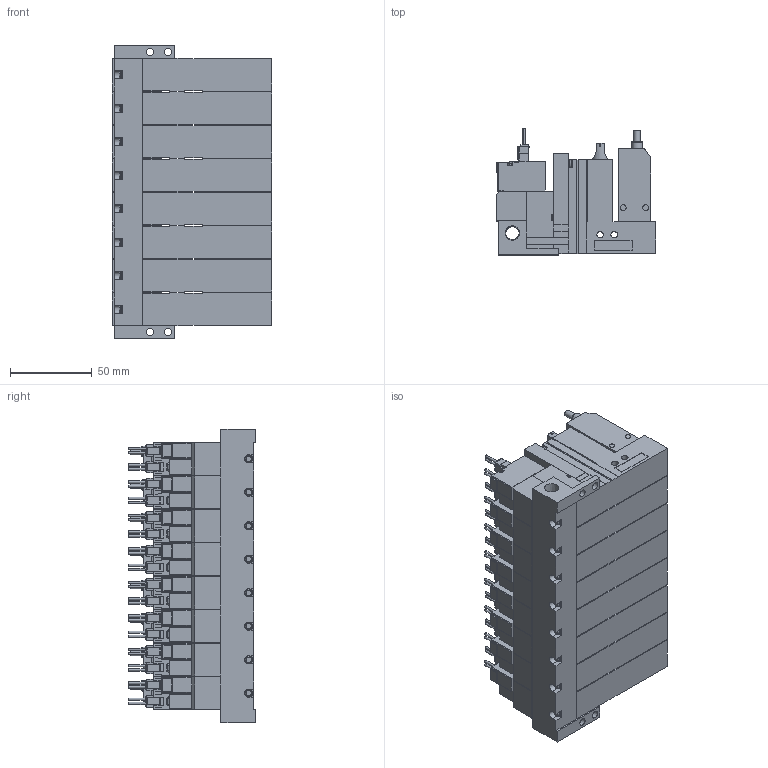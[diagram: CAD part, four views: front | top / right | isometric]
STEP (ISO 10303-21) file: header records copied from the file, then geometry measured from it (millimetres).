
FILE_DESCRIPTION(('STEP AP203'),'1');
FILE_NAME('ABS_ABPLC5ALR808.stp','2025-06-18T05:30:25',(' '),(' '),'Spatial InterOp 3D',' ',' ');
FILE_SCHEMA(('CONFIG_CONTROL_DESIGN'));
Length unit declared in the file: millimetre
Products named in the file (5): BMC22M※※※※ABS_ABPLC5ALR808; Solenoid valve A; Pressure sensor ABSLC; Unit LC; Base MR80R
Assembly tree (25 placements, depth 2):
  BMC22M※※※※ABS_ABPLC5ALR808
    Solenoid valve A  x8
    Pressure sensor ABSLC  x8
    Unit LC  x8
    Base MR80R
Bounding box: 97.6 x 77.45 x 179.5 mm (x, y, z)
Volume: 817728.9 mm3; surface area: 213042.2 mm2
Topology: 25 solids, 25 shells, 3309 faces, 8867 edges, 5816 vertices
Faces by surface type: plane 2814, cylinder 389, cone 58, torus 48
Full cylindrical faces by diameter (mm): 1.4 x32, 2.5 x8, 3 x32, 3.5 x48, 3.6 x8, 4 x24, 4.134 x8, 4.5 x4, 5.2 x8, 6 x8, 6.5 x8, 6.6 x8, 8.279 x1
Entity records: 16814 total; most frequent: CARTESIAN_POINT 3280, DIRECTION 2684, ORIENTED_EDGE 2586, EDGE_CURVE 1293, LINE 1028, VECTOR 1028, VERTEX_POINT 908, AXIS2_PLACEMENT_3D 828
